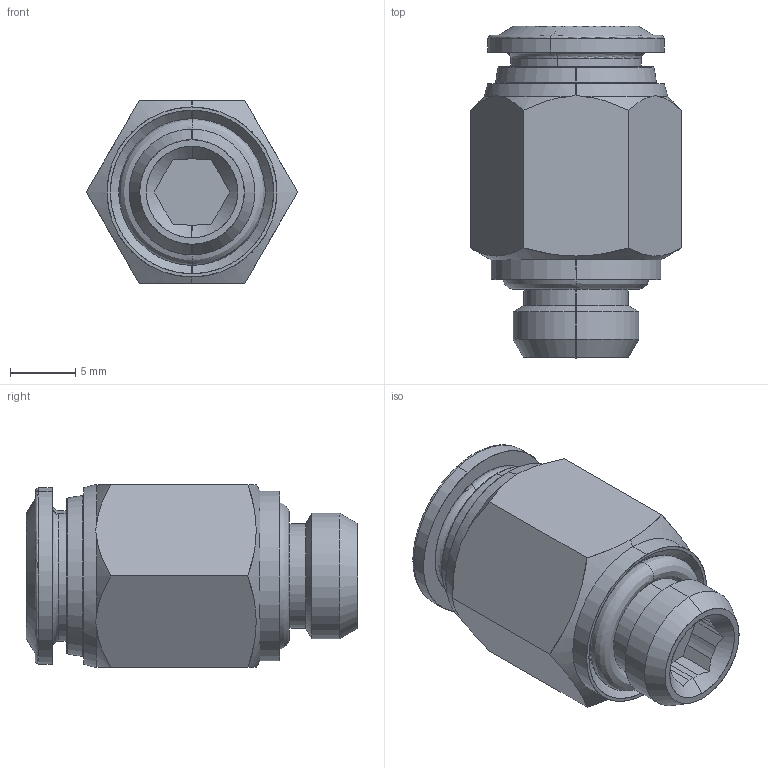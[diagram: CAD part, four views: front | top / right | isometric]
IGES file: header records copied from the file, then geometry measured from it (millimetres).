
Start section: SolidWorks IGES file using analytic representation for surfaces
Global section: file name: K:\Disegni Esecutivi\Serie 57000\ASSIEMI_57000\57020\ASSIEMI_PIENI_57020\5702000005.IGS; native system: SolidWorks 2007; preprocessor: SolidWorks 2007; author: cad02; date: 080201.100156; units: millimetre
Bounding box: 16.17 x 25.4 x 14 mm (x, y, z)
Surface area: 1780.3 mm2 (no closed solid volume)
Topology: 0 solids, 0 shells, 93 faces, 1175 edges, 1175 vertices
Faces by surface type: revolution 47, bspline 46
